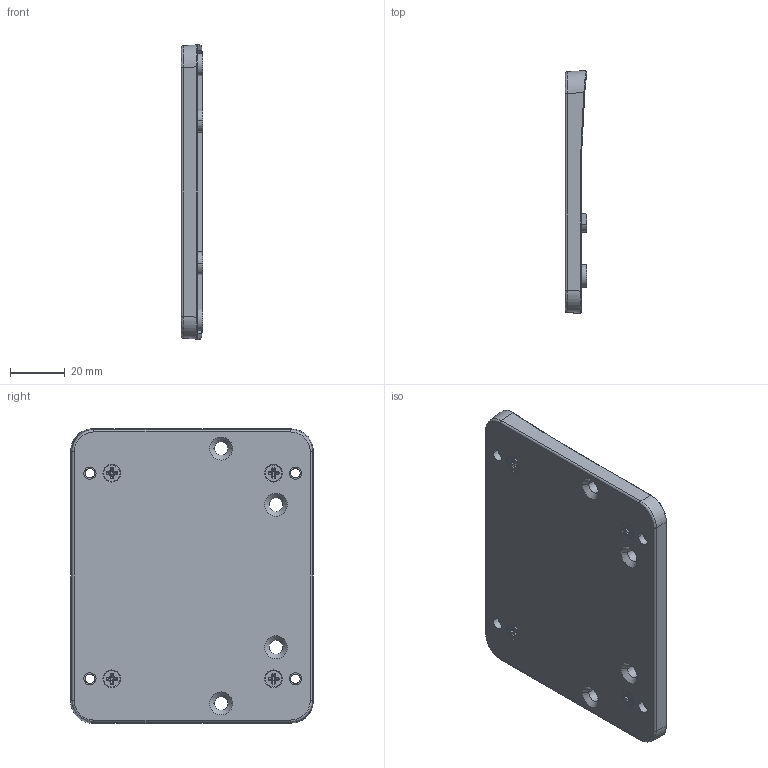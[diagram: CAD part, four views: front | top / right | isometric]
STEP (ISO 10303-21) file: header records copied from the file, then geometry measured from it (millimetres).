
FILE_DESCRIPTION((''),'2;1');
FILE_NAME('LCW_VESA_ADAPTER_ASM','2025-08-13T09:01:45',('Alston.He'),(''),'CREO PARAMETRIC BY PTC INC, 2020414','CREO PARAMETRIC BY PTC INC, 2020414','');
FILE_SCHEMA(('AUTOMOTIVE_DESIGN { 1 0 10303 214 1 1 1 1 }'));
Length unit declared in the file: millimetre
Products named in the file (4): LCW_VESA_ADAPTER_COVER; LCW_VESA_ADAPTER_PLATE; SCREW-0M1G130-5-47-CR3; LCW_VESA_ADAPTER_ASM
Assembly tree (6 placements, depth 2):
  LCW_VESA_ADAPTER_ASM
    LCW_VESA_ADAPTER_COVER
    LCW_VESA_ADAPTER_PLATE
    SCREW-0M1G130-5-47-CR3  x4
Bounding box: 8 x 88.45 x 107.44 mm (x, y, z)
Volume: 39562.9 mm3; surface area: 40907.7 mm2
Topology: 6 solids, 6 shells, 484 faces, 1212 edges, 746 vertices
Faces by surface type: cylinder 218, bspline 126, plane 107, cone 24, extrusion 9
Entity records: 11877 total; most frequent: CARTESIAN_POINT 5492, ORIENTED_EDGE 1194, DIRECTION 1021, EDGE_CURVE 597, VERTEX_POINT 374, AXIS2_PLACEMENT_3D 364, VECTOR 293, LINE 284
